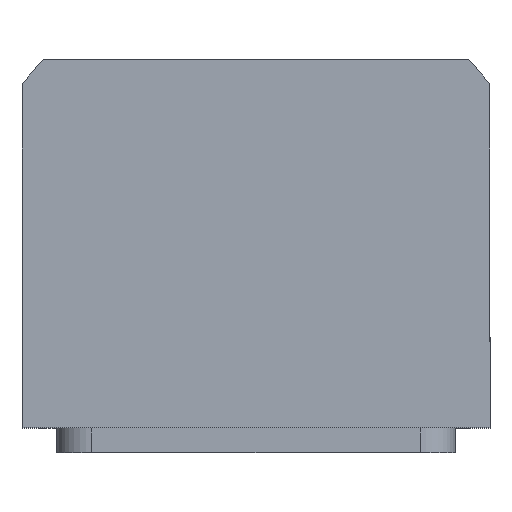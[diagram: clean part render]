
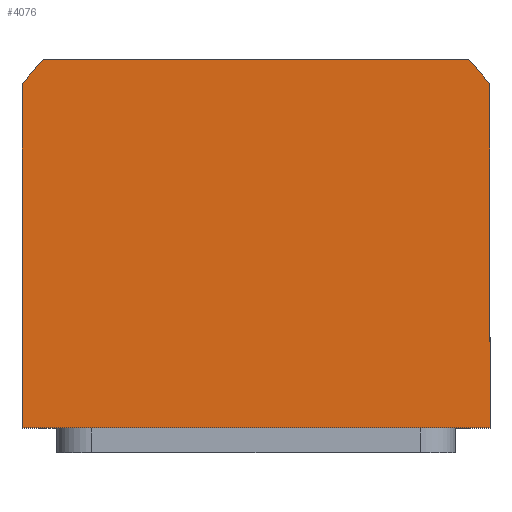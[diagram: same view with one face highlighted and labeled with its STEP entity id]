
A CAD part, top view. The second image highlights one B-rep face of the part: STEP entity #4076.
In plain terms, the highlighted planar face has unit normal (0, 0, 1).
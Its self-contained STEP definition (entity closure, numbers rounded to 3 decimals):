
#98 = ORIENTED_EDGE ( 'NONE', *, *, #9429, .T. ) ;
#273 = CARTESIAN_POINT ( 'NONE',  ( 47., 34.832, 37.5 ) ) ;
#303 = EDGE_CURVE ( 'NONE', #2282, #9917, #4499, .T. ) ;
#408 = CIRCLE ( 'NONE', #1238, 58.5 ) ;
#520 = CARTESIAN_POINT ( 'NONE',  ( -42.688, 40., 37.5 ) ) ;
#573 = VERTEX_POINT ( 'NONE', #11051 ) ;
#626 = DIRECTION ( 'NONE',  ( 1., 0., 0. ) ) ;
#705 = CARTESIAN_POINT ( 'NONE',  ( 0., 0., 37.5 ) ) ;
#1238 = AXIS2_PLACEMENT_3D ( 'NONE', #4314, #6845, #3358 ) ;
#1914 = CARTESIAN_POINT ( 'NONE',  ( 47., 34.832, 37.5 ) ) ;
#2032 = VECTOR ( 'NONE', #5460, 1000. ) ;
#2091 = AXIS2_PLACEMENT_3D ( 'NONE', #705, #9495, #626 ) ;
#2282 = VERTEX_POINT ( 'NONE', #4121 ) ;
#2861 = DIRECTION ( 'NONE',  ( 0., 0., 1. ) ) ;
#2995 = VERTEX_POINT ( 'NONE', #273 ) ;
#3355 = AXIS2_PLACEMENT_3D ( 'NONE', #8300, #2861, #9904 ) ;
#3358 = DIRECTION ( 'NONE',  ( 1., 0., 0. ) ) ;
#3502 = LINE ( 'NONE', #1914, #4471 ) ;
#3733 = PLANE ( 'NONE',  #3355 ) ;
#3788 = DIRECTION ( 'NONE',  ( 0., 1., 0. ) ) ;
#4076 = ADVANCED_FACE ( 'NONE', ( #7903 ), #3733, .T. ) ;
#4121 = CARTESIAN_POINT ( 'NONE',  ( -47., -34., 37.5 ) ) ;
#4148 = ORIENTED_EDGE ( 'NONE', *, *, #10922, .T. ) ;
#4314 = CARTESIAN_POINT ( 'NONE',  ( 0., 0., 37.5 ) ) ;
#4357 = VECTOR ( 'NONE', #6970, 1000. ) ;
#4471 = VECTOR ( 'NONE', #3788, 1000. ) ;
#4499 = LINE ( 'NONE', #5243, #8324 ) ;
#5126 = CARTESIAN_POINT ( 'NONE',  ( -47., -34., 37.5 ) ) ;
#5243 = CARTESIAN_POINT ( 'NONE',  ( 47., -34., 37.5 ) ) ;
#5460 = DIRECTION ( 'NONE',  ( -1., 0., 0. ) ) ;
#5897 = EDGE_CURVE ( 'NONE', #2995, #573, #10644, .T. ) ;
#6750 = VERTEX_POINT ( 'NONE', #11187 ) ;
#6845 = DIRECTION ( 'NONE',  ( 0., 0., 1. ) ) ;
#6904 = VERTEX_POINT ( 'NONE', #520 ) ;
#6970 = DIRECTION ( 'NONE',  ( 0., -1., 0. ) ) ;
#7095 = ORIENTED_EDGE ( 'NONE', *, *, #11196, .T. ) ;
#7150 = CARTESIAN_POINT ( 'NONE',  ( -42.688, 40., 37.5 ) ) ;
#7727 = ORIENTED_EDGE ( 'NONE', *, *, #303, .T. ) ;
#7903 = FACE_OUTER_BOUND ( 'NONE', #10617, .T. ) ;
#8001 = DIRECTION ( 'NONE',  ( 1., 0., 0. ) ) ;
#8300 = CARTESIAN_POINT ( 'NONE',  ( 0., 0., 37.5 ) ) ;
#8324 = VECTOR ( 'NONE', #8001, 1000. ) ;
#8746 = ORIENTED_EDGE ( 'NONE', *, *, #5897, .T. ) ;
#9004 = EDGE_CURVE ( 'NONE', #573, #6904, #9041, .T. ) ;
#9041 = LINE ( 'NONE', #7150, #2032 ) ;
#9429 = EDGE_CURVE ( 'NONE', #6750, #2282, #10140, .T. ) ;
#9495 = DIRECTION ( 'NONE',  ( 0., 0., 1. ) ) ;
#9586 = ORIENTED_EDGE ( 'NONE', *, *, #9004, .T. ) ;
#9904 = DIRECTION ( 'NONE',  ( 1., 0., 0. ) ) ;
#9917 = VERTEX_POINT ( 'NONE', #10084 ) ;
#10084 = CARTESIAN_POINT ( 'NONE',  ( 47., -34., 37.5 ) ) ;
#10140 = LINE ( 'NONE', #5126, #4357 ) ;
#10617 = EDGE_LOOP ( 'NONE', ( #7727, #4148, #8746, #9586, #7095, #98 ) ) ;
#10644 = CIRCLE ( 'NONE', #2091, 58.5 ) ;
#10922 = EDGE_CURVE ( 'NONE', #9917, #2995, #3502, .T. ) ;
#11051 = CARTESIAN_POINT ( 'NONE',  ( 42.688, 40., 37.5 ) ) ;
#11187 = CARTESIAN_POINT ( 'NONE',  ( -47., 34.832, 37.5 ) ) ;
#11196 = EDGE_CURVE ( 'NONE', #6904, #6750, #408, .T. ) ;
